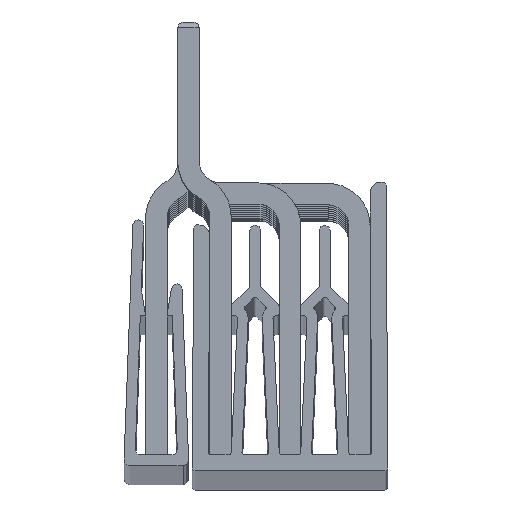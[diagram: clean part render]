
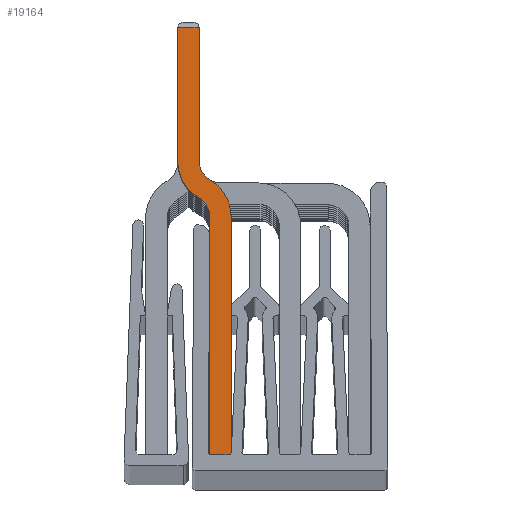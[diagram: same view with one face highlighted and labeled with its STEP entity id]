
A CAD part, top view. The second image highlights one B-rep face of the part: STEP entity #19164.
In plain terms, the highlighted planar face has unit normal (0, 0, 1).
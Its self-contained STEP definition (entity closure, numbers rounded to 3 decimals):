
#6588 = DIRECTION ( 'NONE',  ( -1., 0., 0. ) ) ;
#6589 = VECTOR ( 'NONE', #6588, 1000. ) ;
#6590 = CARTESIAN_POINT ( 'NONE',  ( 3.658, 41.511, 502.5 ) ) ;
#6591 = LINE ( 'NONE', #6590, #6589 ) ;
#6592 = DIRECTION ( 'NONE',  ( 0., -1., 0. ) ) ;
#6593 = VECTOR ( 'NONE', #6592, 1000. ) ;
#6594 = CARTESIAN_POINT ( 'NONE',  ( 0.658, -10.31, 502.5 ) ) ;
#6595 = LINE ( 'NONE', #6594, #6593 ) ;
#6618 = CARTESIAN_POINT ( 'NONE',  ( 1.66, 27.274, 502.5 ) ) ;
#6900 = CARTESIAN_POINT ( 'NONE',  ( 0.658, 29.011, 502.5 ) ) ;
#7542 = DIRECTION ( 'NONE',  ( 1., 0., 0. ) ) ;
#7543 = DIRECTION ( 'NONE',  ( 0., 0., 1. ) ) ;
#7545 = CARTESIAN_POINT ( 'NONE',  ( -0.342, 23.811, 502.5 ) ) ;
#7546 = AXIS2_PLACEMENT_3D ( 'NONE', #7545, #7543, #7542 ) ;
#7547 = CIRCLE ( 'NONE', #7546, 2. ) ;
#7567 = CARTESIAN_POINT ( 'NONE',  ( 0.659, 25.542, 502.5 ) ) ;
#7569 = CARTESIAN_POINT ( 'NONE',  ( 1.658, 23.811, 502.5 ) ) ;
#7922 = CARTESIAN_POINT ( 'NONE',  ( 1.658, 1.511, 502.5 ) ) ;
#7928 = DIRECTION ( 'NONE',  ( 0., 1., 0. ) ) ;
#7929 = VECTOR ( 'NONE', #7928, 1000. ) ;
#7930 = CARTESIAN_POINT ( 'NONE',  ( 1.658, -10.31, 502.5 ) ) ;
#7932 = LINE ( 'NONE', #7930, #7929 ) ;
#12800 = CARTESIAN_POINT ( 'NONE',  ( 3.658, 1.511, 502.5 ) ) ;
#13355 = DIRECTION ( 'NONE',  ( 0., 1., 0. ) ) ;
#13356 = VECTOR ( 'NONE', #13355, 1000. ) ;
#13396 = CARTESIAN_POINT ( 'NONE',  ( 3.658, 23.811, 502.5 ) ) ;
#13493 = CARTESIAN_POINT ( 'NONE',  ( 3.658, -10.31, 502.5 ) ) ;
#13494 = LINE ( 'NONE', #13493, #13356 ) ;
#13633 = DIRECTION ( 'NONE',  ( 1., 0., 0. ) ) ;
#13634 = VECTOR ( 'NONE', #13633, 1000. ) ;
#13635 = CARTESIAN_POINT ( 'NONE',  ( 1.676, 1.511, 502.5 ) ) ;
#13636 = LINE ( 'NONE', #13635, #13634 ) ;
#15114 = CARTESIAN_POINT ( 'NONE',  ( -1.342, 29.011, 502.5 ) ) ;
#15119 = CARTESIAN_POINT ( 'NONE',  ( -1.342, 41.511, 502.5 ) ) ;
#15135 = CARTESIAN_POINT ( 'NONE',  ( 0.658, 41.511, 502.5 ) ) ;
#15174 = DIRECTION ( 'NONE',  ( 0., 0., 1. ) ) ;
#15175 = CARTESIAN_POINT ( 'NONE',  ( 2.664, 29.011, 502.5 ) ) ;
#15176 = AXIS2_PLACEMENT_3D ( 'NONE', #15175, #15174, #15274 ) ;
#15177 = CIRCLE ( 'NONE', #15176, 4.007 ) ;
#15178 = FACE_OUTER_BOUND ( 'NONE', #19225, .T. ) ;
#15192 = DIRECTION ( 'NONE',  ( 0., -1., 0. ) ) ;
#15193 = VECTOR ( 'NONE', #15192, 1000. ) ;
#15194 = CARTESIAN_POINT ( 'NONE',  ( -1.342, -10.31, 502.5 ) ) ;
#15195 = LINE ( 'NONE', #15194, #15193 ) ;
#15274 = DIRECTION ( 'NONE',  ( 1., 0., 0. ) ) ;
#15303 = DIRECTION ( 'NONE',  ( 1., 0., 0. ) ) ;
#15304 = DIRECTION ( 'NONE',  ( 0., 0., 1. ) ) ;
#15305 = CARTESIAN_POINT ( 'NONE',  ( -0.342, 23.811, 502.5 ) ) ;
#15306 = AXIS2_PLACEMENT_3D ( 'NONE', #15305, #15304, #15303 ) ;
#15307 = CIRCLE ( 'NONE', #15306, 4. ) ;
#15309 = DIRECTION ( 'NONE',  ( 1., 0., 0. ) ) ;
#15310 = DIRECTION ( 'NONE',  ( 0., 0., 1. ) ) ;
#15311 = CARTESIAN_POINT ( 'NONE',  ( 2.664, 29.011, 502.5 ) ) ;
#15312 = AXIS2_PLACEMENT_3D ( 'NONE', #15311, #15310, #15309 ) ;
#15313 = CIRCLE ( 'NONE', #15312, 2.007 ) ;
#15339 = DIRECTION ( 'NONE',  ( 1., 0., 0. ) ) ;
#15340 = DIRECTION ( 'NONE',  ( 0., 0., 1. ) ) ;
#15341 = CARTESIAN_POINT ( 'NONE',  ( 1.676, -10.31, 502.5 ) ) ;
#15342 = AXIS2_PLACEMENT_3D ( 'NONE', #15341, #15340, #15339 ) ;
#15344 = PLANE ( 'NONE',  #15342 ) ;
#19152 = VERTEX_POINT ( 'NONE', #15114 ) ;
#19162 = EDGE_CURVE ( 'NONE', #19152, #24301, #15177, .T. ) ;
#19164 = ADVANCED_FACE ( 'NONE', ( #15178 ), #15344, .T. ) ;
#19176 = ORIENTED_EDGE ( 'NONE', *, *, #19251, .T. ) ;
#19178 = ORIENTED_EDGE ( 'NONE', *, *, #20794, .T. ) ;
#19222 = ORIENTED_EDGE ( 'NONE', *, *, #20803, .T. ) ;
#19224 = EDGE_CURVE ( 'NONE', #19290, #19152, #15195, .T. ) ;
#19225 = EDGE_LOOP ( 'NONE', ( #19222, #19176, #19234, #19235, #19382, #19427, #19428, #19440, #19426, #19178 ) ) ;
#19234 = ORIENTED_EDGE ( 'NONE', *, *, #19249, .F. ) ;
#19235 = ORIENTED_EDGE ( 'NONE', *, *, #19417, .F. ) ;
#19249 = EDGE_CURVE ( 'NONE', #19466, #19332, #15313, .T. ) ;
#19251 = EDGE_CURVE ( 'NONE', #20807, #19332, #15307, .T. ) ;
#19290 = VERTEX_POINT ( 'NONE', #15119 ) ;
#19328 = VERTEX_POINT ( 'NONE', #15135 ) ;
#19332 = VERTEX_POINT ( 'NONE', #6618 ) ;
#19382 = ORIENTED_EDGE ( 'NONE', *, *, #19383, .T. ) ;
#19383 = EDGE_CURVE ( 'NONE', #19328, #19290, #6591, .T. ) ;
#19417 = EDGE_CURVE ( 'NONE', #19328, #19466, #6595, .T. ) ;
#19426 = ORIENTED_EDGE ( 'NONE', *, *, #24375, .F. ) ;
#19427 = ORIENTED_EDGE ( 'NONE', *, *, #19224, .T. ) ;
#19428 = ORIENTED_EDGE ( 'NONE', *, *, #19162, .T. ) ;
#19440 = ORIENTED_EDGE ( 'NONE', *, *, #24292, .F. ) ;
#19466 = VERTEX_POINT ( 'NONE', #6900 ) ;
#20750 = VERTEX_POINT ( 'NONE', #12800 ) ;
#20794 = EDGE_CURVE ( 'NONE', #24377, #20750, #13636, .T. ) ;
#20803 = EDGE_CURVE ( 'NONE', #20750, #20807, #13494, .T. ) ;
#20807 = VERTEX_POINT ( 'NONE', #13396 ) ;
#24292 = EDGE_CURVE ( 'NONE', #24300, #24301, #7547, .T. ) ;
#24300 = VERTEX_POINT ( 'NONE', #7569 ) ;
#24301 = VERTEX_POINT ( 'NONE', #7567 ) ;
#24375 = EDGE_CURVE ( 'NONE', #24377, #24300, #7932, .T. ) ;
#24377 = VERTEX_POINT ( 'NONE', #7922 ) ;
